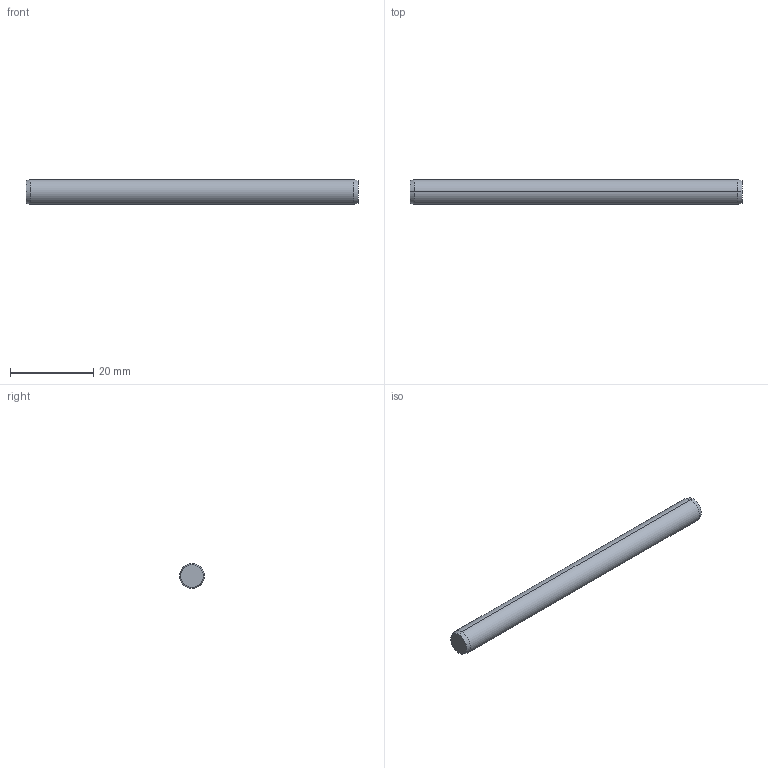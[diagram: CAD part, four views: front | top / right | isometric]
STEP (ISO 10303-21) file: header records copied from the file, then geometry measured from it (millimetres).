
FILE_DESCRIPTION (( 'STEP AP203' ), '1' );
FILE_NAME ('P1206.060-080.step', '2017-06-14T08:24:16', ( 'User' ), ( '' ), 'SwSTEP 2.0', 'SolidWorks 2009', '' );
FILE_SCHEMA (( 'CONFIG_CONTROL_DESIGN' ));
Length unit declared in the file: millimetre
Products named in the file (1): P1206.060-080
Bounding box: 80 x 6 x 6 mm (x, y, z)
Volume: 2257 mm3; surface area: 1554.4 mm2
Topology: 1 solids, 1 shells, 8 faces, 14 edges, 8 vertices
Faces by surface type: cone 4, cylinder 2, plane 2
Entity records: 271 total; most frequent: DIRECTION 40, CARTESIAN_POINT 31, ORIENTED_EDGE 28, AXIS2_PLACEMENT_3D 17, EDGE_CURVE 14, EDGE_LOOP 8, VERTEX_POINT 8, ADVANCED_FACE 8
